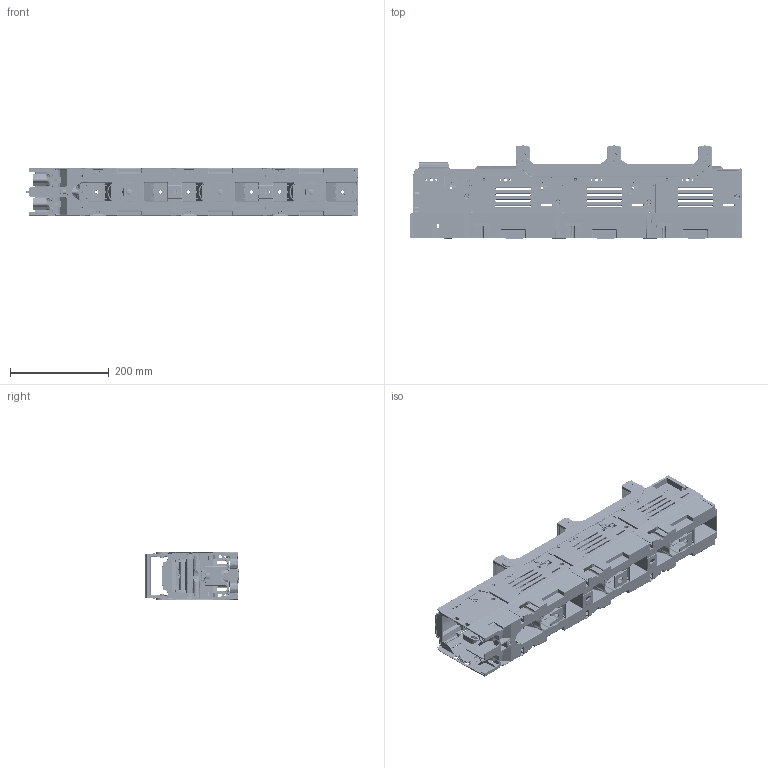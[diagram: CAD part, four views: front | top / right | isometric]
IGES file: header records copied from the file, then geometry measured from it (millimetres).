
Start section: SolidWorks IGES file using analytic representation for surfaces
Global section: file name: U:\14_RD\05_Technical_office\04_Office\Hrdinova\3D modely - IGES\Varius - FSD\FSD123-33-LW.IGS; native system: SolidWorks 2011; preprocessor: SolidWorks 2011; author: adhrja3; date: 170620.124304; units: millimetre
Bounding box: 674 x 189 x 99 mm (x, y, z)
Surface area: 1293482.7 mm2 (no closed solid volume)
Topology: 0 solids, 0 shells, 11744 faces, 90951 edges, 90721 vertices
Faces by surface type: bspline 7428, revolution 4316
